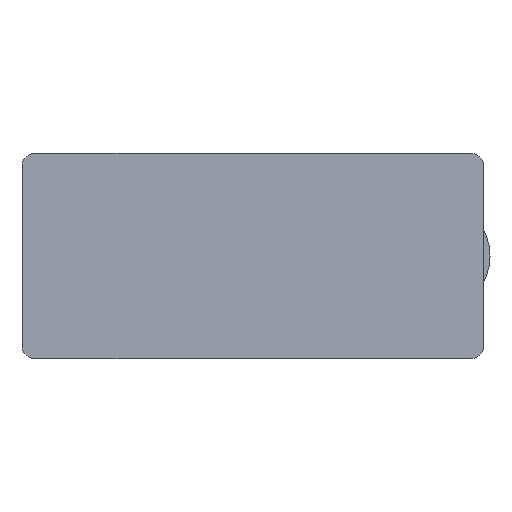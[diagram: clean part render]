
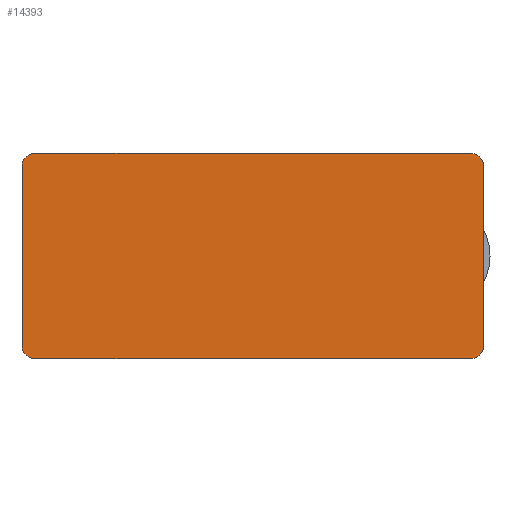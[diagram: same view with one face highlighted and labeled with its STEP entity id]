
A CAD part, front view. The second image highlights one B-rep face of the part: STEP entity #14393.
In plain terms, the highlighted planar face has unit normal (0, -1, 0).
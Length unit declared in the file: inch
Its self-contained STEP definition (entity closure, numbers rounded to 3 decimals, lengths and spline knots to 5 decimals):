
#190 = VERTEX_POINT ( 'NONE', #11767 ) ;
#594 = CARTESIAN_POINT ( 'NONE',  ( -51.84, -22.68, 12.96 ) ) ;
#925 = EDGE_CURVE ( 'NONE', #15827, #19482, #5003, .T. ) ;
#1012 = VECTOR ( 'NONE', #1823, 39.37008 ) ;
#1023 = VECTOR ( 'NONE', #5012, 39.37008 ) ;
#1408 = DIRECTION ( 'NONE',  ( 0., 0., 1. ) ) ;
#1823 = DIRECTION ( 'NONE',  ( 0., 0., -1. ) ) ;
#2420 = CARTESIAN_POINT ( 'NONE',  ( -51.84, -22.68, -11.34 ) ) ;
#2491 = EDGE_CURVE ( 'NONE', #10570, #2916, #8516, .T. ) ;
#2493 = ORIENTED_EDGE ( 'NONE', *, *, #2491, .F. ) ;
#2538 = CARTESIAN_POINT ( 'NONE',  ( -50.22, -22.68, 12.96 ) ) ;
#2916 = VERTEX_POINT ( 'NONE', #14045 ) ;
#3750 = ORIENTED_EDGE ( 'NONE', *, *, #10391, .F. ) ;
#3926 = CIRCLE ( 'NONE', #15799, 1.62 ) ;
#5003 = LINE ( 'NONE', #11898, #1012 ) ;
#5012 = DIRECTION ( 'NONE',  ( 0., 0., 1. ) ) ;
#5304 = DIRECTION ( 'NONE',  ( 1., 0., 0. ) ) ;
#5316 = ORIENTED_EDGE ( 'NONE', *, *, #12580, .T. ) ;
#5660 = DIRECTION ( 'NONE',  ( 0., 0., 1. ) ) ;
#5766 = CIRCLE ( 'NONE', #8230, 1.62 ) ;
#6011 = CARTESIAN_POINT ( 'NONE',  ( 4.86, -22.68, -11.34 ) ) ;
#6078 = CARTESIAN_POINT ( 'NONE',  ( -51.84, -22.68, -12.96 ) ) ;
#7821 = CIRCLE ( 'NONE', #20043, 1.62 ) ;
#8058 = LINE ( 'NONE', #6078, #15903 ) ;
#8230 = AXIS2_PLACEMENT_3D ( 'NONE', #14568, #19600, #20796 ) ;
#8516 = LINE ( 'NONE', #21645, #1023 ) ;
#8803 = CARTESIAN_POINT ( 'NONE',  ( 4.86, -22.68, 12.96 ) ) ;
#8975 = AXIS2_PLACEMENT_3D ( 'NONE', #19126, #20648, #5660 ) ;
#9586 = DIRECTION ( 'NONE',  ( -1., 0., 0. ) ) ;
#9738 = EDGE_CURVE ( 'NONE', #15827, #13341, #5766, .T. ) ;
#10391 = EDGE_CURVE ( 'NONE', #19495, #13341, #12086, .T. ) ;
#10570 = VERTEX_POINT ( 'NONE', #2420 ) ;
#11581 = CARTESIAN_POINT ( 'NONE',  ( -50.22, -22.68, -11.34 ) ) ;
#11767 = CARTESIAN_POINT ( 'NONE',  ( 4.86, -22.68, -12.96 ) ) ;
#11898 = CARTESIAN_POINT ( 'NONE',  ( 6.48, -22.68, -12.96 ) ) ;
#12086 = LINE ( 'NONE', #594, #20055 ) ;
#12580 = EDGE_CURVE ( 'NONE', #19495, #2916, #3926, .T. ) ;
#13330 = ORIENTED_EDGE ( 'NONE', *, *, #20151, .F. ) ;
#13341 = VERTEX_POINT ( 'NONE', #8803 ) ;
#13702 = DIRECTION ( 'NONE',  ( 0., 0., 1. ) ) ;
#14045 = CARTESIAN_POINT ( 'NONE',  ( -51.84, -22.68, 11.34 ) ) ;
#14125 = EDGE_CURVE ( 'NONE', #10570, #20642, #7821, .T. ) ;
#14365 = CARTESIAN_POINT ( 'NONE',  ( -50.22, -22.68, -12.96 ) ) ;
#14393 = ADVANCED_FACE ( 'NONE', ( #15948 ), #20868, .F. ) ;
#14568 = CARTESIAN_POINT ( 'NONE',  ( 4.86, -22.68, 11.34 ) ) ;
#15397 = ORIENTED_EDGE ( 'NONE', *, *, #9738, .T. ) ;
#15799 = AXIS2_PLACEMENT_3D ( 'NONE', #20598, #20374, #13702 ) ;
#15827 = VERTEX_POINT ( 'NONE', #20727 ) ;
#15903 = VECTOR ( 'NONE', #9586, 39.37008 ) ;
#15948 = FACE_OUTER_BOUND ( 'NONE', #18648, .T. ) ;
#16397 = DIRECTION ( 'NONE',  ( 0., -1., 0. ) ) ;
#16454 = CARTESIAN_POINT ( 'NONE',  ( 6.48, -22.68, -11.34 ) ) ;
#16498 = DIRECTION ( 'NONE',  ( 0., -1., 0. ) ) ;
#17365 = ORIENTED_EDGE ( 'NONE', *, *, #14125, .T. ) ;
#17428 = CIRCLE ( 'NONE', #17785, 1.62 ) ;
#17429 = EDGE_CURVE ( 'NONE', #190, #19482, #17428, .T. ) ;
#17785 = AXIS2_PLACEMENT_3D ( 'NONE', #6011, #16397, #1408 ) ;
#17833 = DIRECTION ( 'NONE',  ( 0., 0., 1. ) ) ;
#18648 = EDGE_LOOP ( 'NONE', ( #2493, #17365, #13330, #20573, #20298, #15397, #3750, #5316 ) ) ;
#19126 = CARTESIAN_POINT ( 'NONE',  ( 0., -22.68, 0. ) ) ;
#19482 = VERTEX_POINT ( 'NONE', #16454 ) ;
#19495 = VERTEX_POINT ( 'NONE', #2538 ) ;
#19600 = DIRECTION ( 'NONE',  ( 0., -1., 0. ) ) ;
#20043 = AXIS2_PLACEMENT_3D ( 'NONE', #11581, #16498, #17833 ) ;
#20055 = VECTOR ( 'NONE', #5304, 39.37008 ) ;
#20151 = EDGE_CURVE ( 'NONE', #190, #20642, #8058, .T. ) ;
#20298 = ORIENTED_EDGE ( 'NONE', *, *, #925, .F. ) ;
#20374 = DIRECTION ( 'NONE',  ( 0., -1., 0. ) ) ;
#20573 = ORIENTED_EDGE ( 'NONE', *, *, #17429, .T. ) ;
#20598 = CARTESIAN_POINT ( 'NONE',  ( -50.22, -22.68, 11.34 ) ) ;
#20642 = VERTEX_POINT ( 'NONE', #14365 ) ;
#20648 = DIRECTION ( 'NONE',  ( 0., 1., 0. ) ) ;
#20727 = CARTESIAN_POINT ( 'NONE',  ( 6.48, -22.68, 11.34 ) ) ;
#20796 = DIRECTION ( 'NONE',  ( 0., 0., 1. ) ) ;
#20868 = PLANE ( 'NONE',  #8975 ) ;
#21645 = CARTESIAN_POINT ( 'NONE',  ( -51.84, -22.68, -12.96 ) ) ;
